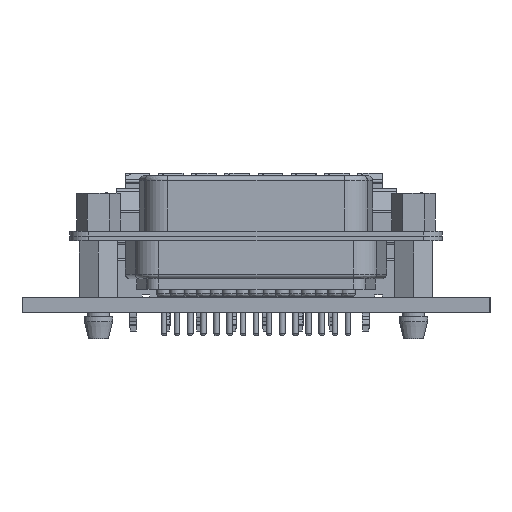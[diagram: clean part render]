
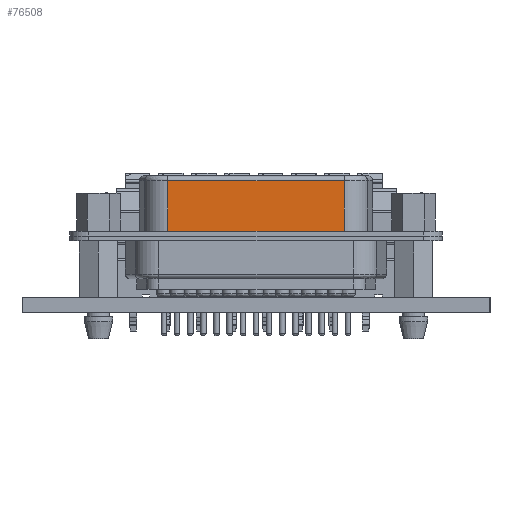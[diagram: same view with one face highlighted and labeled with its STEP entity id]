
A CAD part, left-side view. The second image highlights one B-rep face of the part: STEP entity #76508.
In plain terms, the highlighted planar face has unit normal (-1, 0, 0) as drawn and (0, 0, 1) by its records, which use the part's own axes.
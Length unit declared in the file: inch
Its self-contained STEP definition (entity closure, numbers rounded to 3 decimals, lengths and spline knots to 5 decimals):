
#6040 = CARTESIAN_POINT ( 'NONE',  ( 0.09317, -0.10512, 0.15551 ) ) ;
#6695 = DIRECTION ( 'NONE',  ( 1., 0., 0. ) ) ;
#7244 = LINE ( 'NONE', #68440, #110732 ) ;
#7533 = DIRECTION ( 'NONE',  ( 0., 0., 1. ) ) ;
#7744 = EDGE_CURVE ( 'NONE', #50527, #101922, #7244, .T. ) ;
#8397 = AXIS2_PLACEMENT_3D ( 'NONE', #63266, #7533, #6695 ) ;
#21033 = ORIENTED_EDGE ( 'NONE', *, *, #85237, .F. ) ;
#21170 = LINE ( 'NONE', #55793, #34411 ) ;
#22453 = CARTESIAN_POINT ( 'NONE',  ( 1.04409, -0.10512, 0.15551 ) ) ;
#23235 = CARTESIAN_POINT ( 'NONE',  ( -0.63845, -0.10512, 0.15551 ) ) ;
#24526 = ORIENTED_EDGE ( 'NONE', *, *, #7744, .F. ) ;
#25611 = EDGE_CURVE ( 'NONE', #97471, #53915, #81603, .T. ) ;
#26028 = LINE ( 'NONE', #22453, #79349 ) ;
#29390 = EDGE_CURVE ( 'NONE', #101922, #53915, #21170, .T. ) ;
#30483 = CARTESIAN_POINT ( 'NONE',  ( 0.09317, -0.10512, 0.15551 ) ) ;
#33888 = ORIENTED_EDGE ( 'NONE', *, *, #25611, .T. ) ;
#34411 = VECTOR ( 'NONE', #104131, 39.37008 ) ;
#40660 = DIRECTION ( 'NONE',  ( -1., 0., 0. ) ) ;
#46232 = FACE_OUTER_BOUND ( 'NONE', #119976, .T. ) ;
#50527 = VERTEX_POINT ( 'NONE', #23235 ) ;
#53915 = VERTEX_POINT ( 'NONE', #77304 ) ;
#54617 = PLANE ( 'NONE',  #8397 ) ;
#55793 = CARTESIAN_POINT ( 'NONE',  ( 0.63845, 0.10512, 0.15551 ) ) ;
#63266 = CARTESIAN_POINT ( 'NONE',  ( -0.63845, -0.10512, 0.15551 ) ) ;
#68440 = CARTESIAN_POINT ( 'NONE',  ( -0.63845, -0.10512, 0.15551 ) ) ;
#76508 = ADVANCED_FACE ( 'NONE', ( #46232 ), #54617, .T. ) ;
#77304 = CARTESIAN_POINT ( 'NONE',  ( 0.09317, 0.10512, 0.15551 ) ) ;
#77967 = DIRECTION ( 'NONE',  ( 0., 1., 0. ) ) ;
#79349 = VECTOR ( 'NONE', #40660, 39.37008 ) ;
#81603 = LINE ( 'NONE', #6040, #111144 ) ;
#85237 = EDGE_CURVE ( 'NONE', #97471, #50527, #26028, .T. ) ;
#97387 = CARTESIAN_POINT ( 'NONE',  ( -0.63845, 0.10512, 0.15551 ) ) ;
#97471 = VERTEX_POINT ( 'NONE', #30483 ) ;
#101922 = VERTEX_POINT ( 'NONE', #97387 ) ;
#104131 = DIRECTION ( 'NONE',  ( 1., 0., 0. ) ) ;
#106623 = ORIENTED_EDGE ( 'NONE', *, *, #29390, .F. ) ;
#110135 = DIRECTION ( 'NONE',  ( 0., 1., 0. ) ) ;
#110732 = VECTOR ( 'NONE', #77967, 39.37008 ) ;
#111144 = VECTOR ( 'NONE', #110135, 39.37008 ) ;
#119976 = EDGE_LOOP ( 'NONE', ( #106623, #24526, #21033, #33888 ) ) ;
